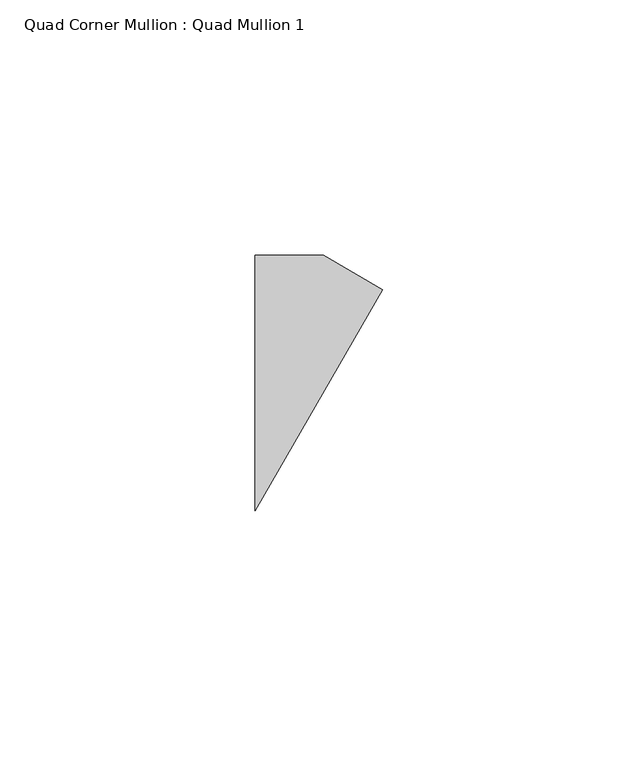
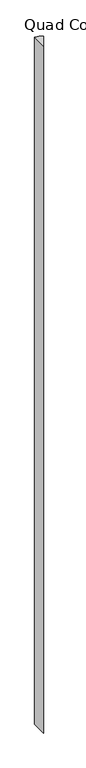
"""IFC4 building model written with IfcOpenShell, lengths in millimetres: member geometry, Quad Corner Mullion : Quad Mullion 1."""

from ifc_helpers import new_model, si_unit, frame, origin, place, context, project, spatial, polyline, outline, extrude, source, transform, mapped, element, save


def quad_corner_mullion_quad_mullion_1_15f3f730(model_context):
    return source(origin(), model_context, "Body", "SweptSolid", [
        extrude(outline(polyline([(18.3012702, 18.3012702), (-6.6987298, -25.0), (-6.6987298, 25.0), (6.6987298, 25.0), (18.3012702, 18.3012702)])), frame((0.0, 0.0, -2350.0), z_axis=(0.0, 0.0, 1.0), x_axis=(1.0, 0.0, 0.0)), (0.0, 0.0, 1.0), 2350.0),
    ])


if __name__ == "__main__":
    model = new_model("IFC4")
    model_context = context("Model", 3, world=origin())
    ifc_project = project(units=[si_unit("LENGTHUNIT", "METRE", prefix="MILLI")], contexts=[model_context])
    site = spatial("IfcSite", under=ifc_project)
    building = spatial("IfcBuilding", under=site)
    placement = place(None, origin())
    quad_corner_mullion_quad_mullion_1_shape = quad_corner_mullion_quad_mullion_1_15f3f730(model_context)
    element("IfcMember", 1, ObjectType="Quad Corner Mullion : Quad Mullion 1", at=placement, inside=building, context=model_context, shape_type="MappedRepresentation", body=[
        mapped(quad_corner_mullion_quad_mullion_1_shape, transform((0.0, 0.0, 0.0), x_axis=(1.0, 0.0, 0.0), y_axis=(0.0, 1.0, 0.0), z_axis=(0.0, 0.0, 1.0))),
    ])
    save(model, "model.ifc")
